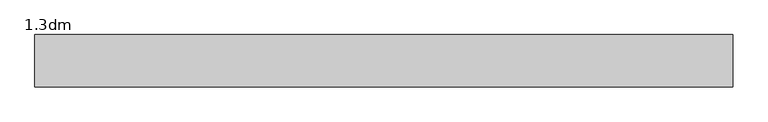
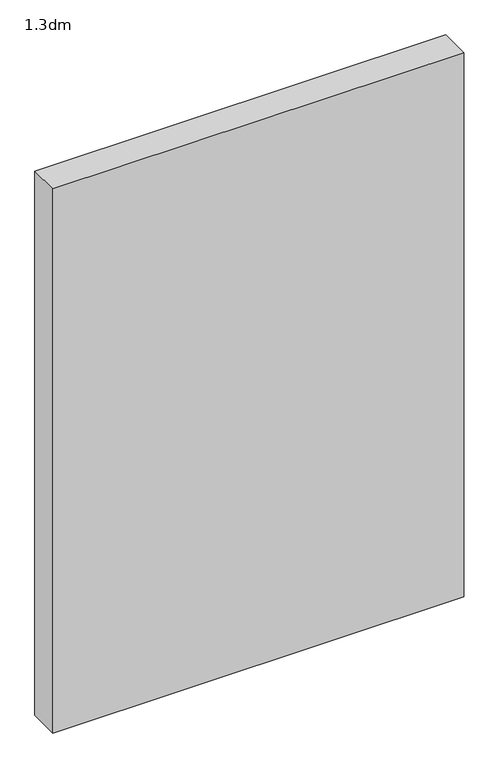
"""IFC4 building model written with IfcOpenShell, lengths in millimetres: proxy geometry, 1.3dm."""

import ifcopenshell
import ifcopenshell.guid

model = None  # the IFC model being written
_history = None  # IfcOwnerHistory: only IFC2X3 demands one
_inside = {}  # id of a spatial element -> (the spatial element, [elements in it])
_under = {}  # id of a project, library or spatial element -> (it, [spatial elements below it])
_declared = {}  # id of a project -> (the project, [libraries it declares])
_typed = {}  # id of a type object -> (the type object, [elements of that type])
_made_of = {}  # id of a material, layer set ... -> (it, [elements and type objects made of it])


def new_model(schema):
    """Start an empty IFC model of exactly this schema.

    Asked for "IFC4X3", IfcOpenShell would pick the latest addendum, in which some entities
    have other attributes; the version numbers below select the first issue.
    IFC2X3 requires an IfcOwnerHistory on every rooted entity: one is made here for all.
    """
    global model, _history
    if schema == "IFC4X3":
        model = ifcopenshell.file(schema_version=(4, 3, 0, 0))
    else:
        model = ifcopenshell.file(schema=schema)
    _inside.clear()
    _under.clear()
    _declared.clear()
    _typed.clear()
    _made_of.clear()
    _history = None
    if model.schema == "IFC2X3":
        org = make("IfcOrganization", Name="unknown")
        user = make(
            "IfcPersonAndOrganization",
            ThePerson=make("IfcPerson", FamilyName="unknown"),
            TheOrganization=org,
        )
        app = make(
            "IfcApplication",
            ApplicationDeveloper=org,
            Version="unknown",
            ApplicationFullName="unknown",
            ApplicationIdentifier="unknown",
        )
        _history = make(
            "IfcOwnerHistory",
            OwningUser=user,
            OwningApplication=app,
            ChangeAction="ADDED",
            CreationDate=0,
        )
    return model


def make(cls, **values):
    """One entity of the class cls with the attributes given. An attribute that is None is left unset."""
    return model.create_entity(
        cls, **{name: value for name, value in values.items() if value is not None}
    )


def rooted(cls, **values):
    """An entity with a GlobalId (a new one), such as an element, a storey or a relation."""
    return make(cls, GlobalId=ifcopenshell.guid.new(), OwnerHistory=_history, **values)


def si_unit(unit_type, name, prefix=None):
    """IfcSIUnit, for example si_unit("LENGTHUNIT", "METRE", prefix="MILLI")."""
    return make("IfcSIUnit", UnitType=unit_type, Prefix=prefix, Name=name)


def assignment(units):
    """IfcUnitAssignment: the units of a project."""
    return None if units is None else make("IfcUnitAssignment", Units=units)


def point(xyz):
    """IfcCartesianPoint."""
    return None if xyz is None else make("IfcCartesianPoint", Coordinates=xyz)


def direction(xyz):
    """IfcDirection."""
    return None if xyz is None else make("IfcDirection", DirectionRatios=xyz)


def frame(location, z_axis=None, x_axis=None):
    """IfcAxis2Placement3D, a coordinate frame: its origin and axes. An axis left out is left unset."""
    return make(
        "IfcAxis2Placement3D",
        Location=point(location),
        Axis=direction(z_axis),
        RefDirection=direction(x_axis),
    )


def origin():
    """The frame at (0, 0, 0) with its axes left unset."""
    return frame((0.0, 0.0, 0.0))


def origin_with_axes():
    """The frame at (0, 0, 0) with the z axis (0, 0, 1) and the x axis (1, 0, 0) written out."""
    return frame((0.0, 0.0, 0.0), z_axis=(0.0, 0.0, 1.0), x_axis=(1.0, 0.0, 0.0))


def place(relative_to, where):
    """IfcLocalPlacement: puts the frame where relative to a parent placement (None: the world)."""
    return make(
        "IfcLocalPlacement", PlacementRelTo=relative_to, RelativePlacement=where
    )


def context(
    kind, dimensions, precision=None, world=None, true_north=None, identifier=None
):
    """IfcGeometricRepresentationContext, for example the 3D "Model" context."""
    return make(
        "IfcGeometricRepresentationContext",
        ContextIdentifier=identifier,
        ContextType=kind,
        CoordinateSpaceDimension=dimensions,
        Precision=precision,
        WorldCoordinateSystem=world,
        TrueNorth=true_north,
    )


def project(units=None, contexts=None):
    """IfcProject with its units and contexts."""
    return rooted(
        "IfcProject",
        Name="project",
        RepresentationContexts=contexts,
        UnitsInContext=assignment(units),
    )


def spatial(cls, under=None, at=None, **own):
    """A site, building, storey or space (cls), placed at a placement, below another one or the project."""
    s = rooted(cls, ObjectPlacement=at, **own)
    if under is not None:
        _under.setdefault(under.id(), (under, []))[1].append(s)
    return s


def polyline(points):
    """IfcPolyline through the points."""
    return make("IfcPolyline", Points=[point(p) for p in points])


def outline(outer, holes=None, kind="AREA"):
    """IfcArbitraryClosedProfileDef: a profile drawn as a closed curve; with holes, ...WithVoids."""
    if holes is None:
        return make("IfcArbitraryClosedProfileDef", ProfileType=kind, OuterCurve=outer)
    return make(
        "IfcArbitraryProfileDefWithVoids",
        ProfileType=kind,
        OuterCurve=outer,
        InnerCurves=holes,
    )


def extrude(swept, where, along, depth):
    """IfcExtrudedAreaSolid: the profile swept, set in the frame where, extruded along a direction by depth."""
    return make(
        "IfcExtrudedAreaSolid",
        SweptArea=swept,
        Position=where,
        ExtrudedDirection=direction(along),
        Depth=depth,
    )


def shape(context_of_items, identifier, shape_type, items):
    """IfcShapeRepresentation: the items that make up one representation, for example the "Body"."""
    return make(
        "IfcShapeRepresentation",
        ContextOfItems=context_of_items,
        RepresentationIdentifier=identifier,
        RepresentationType=shape_type,
        Items=items,
    )


def source(mapping_origin, context_of_items, identifier, shape_type, items):
    """IfcRepresentationMap: a shape defined once, which mapped items show again and again."""
    return make(
        "IfcRepresentationMap",
        MappingOrigin=mapping_origin,
        MappedRepresentation=shape(context_of_items, identifier, shape_type, items),
    )


def transform(
    local_origin,
    x_axis=None,
    y_axis=None,
    z_axis=None,
    scale=None,
    scale2=None,
    scale3=None,
    uniform=True,
):
    """IfcCartesianTransformationOperator3D, or its non-uniform kind. x_axis, y_axis, z_axis: its Axis1, 2, 3."""
    if uniform:
        return make(
            "IfcCartesianTransformationOperator3D",
            Axis1=direction(x_axis),
            Axis2=direction(y_axis),
            LocalOrigin=point(local_origin),
            Scale=scale,
            Axis3=direction(z_axis),
        )
    return make(
        "IfcCartesianTransformationOperator3DnonUniform",
        Axis1=direction(x_axis),
        Axis2=direction(y_axis),
        LocalOrigin=point(local_origin),
        Scale=scale,
        Axis3=direction(z_axis),
        Scale2=scale2,
        Scale3=scale3,
    )


def mapped(mapping_source, mapping_target):
    """IfcMappedItem: shows the shape of a source again, moved by a transform."""
    return make(
        "IfcMappedItem", MappingSource=mapping_source, MappingTarget=mapping_target
    )


def made_of(thing, what):
    """Note that an element or type object is made of a material, layer set ...; save() writes the relation."""
    if what is not None:
        _made_of.setdefault(what.id(), (what, []))[1].append(thing)
    return thing


def element(
    cls,
    number,
    at=None,
    inside=None,
    cuts=None,
    type_object=None,
    material=None,
    context=None,
    identifier="Body",
    shape_type=None,
    held_by="IfcProductDefinitionShape",
    body=None,
    shapes=None,
    **own,
):
    """One element of the class cls, such as IfcWall. Its Tag is "e" and its number.

    at: its placement. inside: the storey or other place that contains it. cuts: it is an
    opening in that element (IfcRelVoidsElement). A single representation is given by context,
    identifier, shape_type and body (its items); several are given by shapes. held_by: the class
    of the entity that holds the representations. save() writes the other relations.
    """
    e = rooted(cls, Tag="e%d" % number, ObjectPlacement=at, **own)
    if body is not None:
        shapes = [shape(context, identifier, shape_type, body)]
    if shapes is not None:
        e.Representation = make(held_by, Representations=shapes)
    if inside is not None:
        _inside.setdefault(inside.id(), (inside, []))[1].append(e)
    if cuts is not None:
        rooted(
            "IfcRelVoidsElement", RelatingBuildingElement=cuts, RelatedOpeningElement=e
        )
    if type_object is not None:
        _typed.setdefault(type_object.id(), (type_object, []))[1].append(e)
    return made_of(e, material)


def aggregate(whole, parts):
    """IfcRelAggregates: a whole, such as a stair, and the parts it consists of."""
    return rooted("IfcRelAggregates", RelatingObject=whole, RelatedObjects=parts)


def save(model, path):
    """Write the relations noted so far, then the file.

    IfcRelAggregates (storeys below a building ...), IfcRelContainedInSpatialStructure (elements
    in a storey), IfcRelDefinesByType, IfcRelAssociatesMaterial and IfcRelDeclares: one each for
    every whole, place, type object, material and project.
    """
    for whole, parts in _under.values():
        aggregate(whole, parts)
    for where, things in _inside.values():
        rooted(
            "IfcRelContainedInSpatialStructure",
            RelatedElements=things,
            RelatingStructure=where,
        )
    for kind, things in _typed.values():
        rooted("IfcRelDefinesByType", RelatedObjects=things, RelatingType=kind)
    for what, things in _made_of.values():
        rooted("IfcRelAssociatesMaterial", RelatedObjects=things, RelatingMaterial=what)
    for by, libraries in _declared.values():
        rooted("IfcRelDeclares", RelatingContext=by, RelatedDefinitions=libraries)
    model.write(path)


def proxy_1_3dm_c59fca89(model_context):
    return source(origin(), model_context, "Body", "SweptSolid", [
        extrude(outline(polyline([(0.2096042, 12.0), (0.2096042, 162.0), (2000.2096042, 162.0), (2000.2096042, 12.0), (0.2096042, 12.0)])), origin_with_axes(), (0.0, 0.0, 1.0), 2800.0),
    ])


if __name__ == "__main__":
    model = new_model("IFC4")
    model_context = context("Model", 3, world=origin())
    ifc_project = project(units=[si_unit("LENGTHUNIT", "METRE", prefix="MILLI")], contexts=[model_context])
    site = spatial("IfcSite", under=ifc_project)
    building = spatial("IfcBuilding", under=site)
    placement = place(None, origin())
    proxy_1_3dm_shape = proxy_1_3dm_c59fca89(model_context)
    element("IfcBuildingElementProxy", 1, Name="1.3dm", ObjectType="1.3dm", at=placement, inside=building, context=model_context, shape_type="MappedRepresentation", body=[
        mapped(proxy_1_3dm_shape, transform((0.0, 0.0, 0.0), x_axis=(1.0, 0.0, 0.0), y_axis=(0.0, 1.0, 0.0), z_axis=(0.0, 0.0, 1.0))),
    ])
    save(model, "model.ifc")
